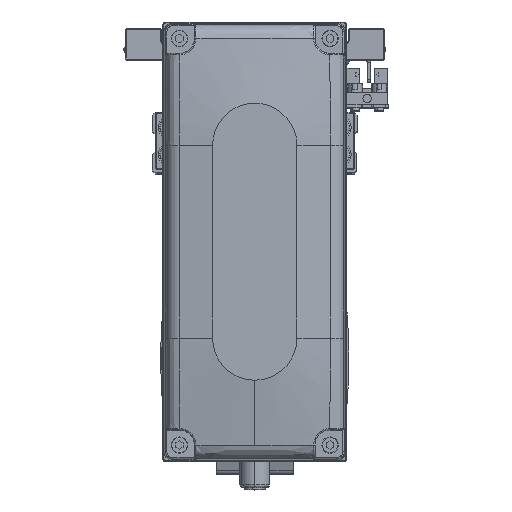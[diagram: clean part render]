
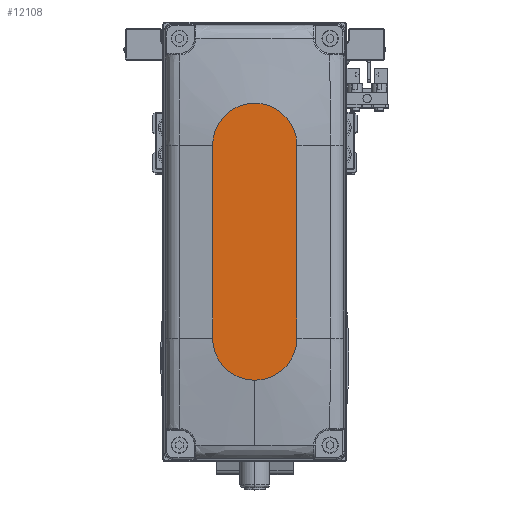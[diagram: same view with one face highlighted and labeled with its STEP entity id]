
A CAD part, top view. The second image highlights one B-rep face of the part: STEP entity #12108.
In plain terms, the highlighted planar face has unit normal (0, 0, 1).
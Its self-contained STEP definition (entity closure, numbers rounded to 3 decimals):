
#1050 = CIRCLE ( 'NONE', #25648, 14. ) ;
#1856 = CARTESIAN_POINT ( 'NONE',  ( 32., 0., 35. ) ) ;
#2199 = ORIENTED_EDGE ( 'NONE', *, *, #39862, .T. ) ;
#2525 = CARTESIAN_POINT ( 'NONE',  ( -32., 0., 35. ) ) ;
#4922 = DIRECTION ( 'NONE',  ( 1., 0., 0. ) ) ;
#7178 = VECTOR ( 'NONE', #37566, 1000. ) ;
#8194 = PLANE ( 'NONE',  #36282 ) ;
#8366 = AXIS2_PLACEMENT_3D ( 'NONE', #2525, #15924, #29371 ) ;
#9100 = CARTESIAN_POINT ( 'NONE',  ( -32., -14., 35. ) ) ;
#10685 = LINE ( 'NONE', #24102, #7178 ) ;
#11207 = AXIS2_PLACEMENT_3D ( 'NONE', #1856, #15267, #28710 ) ;
#11889 = DIRECTION ( 'NONE',  ( 1., 0., 0. ) ) ;
#12108 = ADVANCED_FACE ( 'NONE', ( #38385 ), #8194, .T. ) ;
#12723 = VERTEX_POINT ( 'NONE', #23101 ) ;
#13857 = CARTESIAN_POINT ( 'NONE',  ( -32., -14., 35. ) ) ;
#15267 = DIRECTION ( 'NONE',  ( 0., 0., 1. ) ) ;
#15279 = ORIENTED_EDGE ( 'NONE', *, *, #24100, .T. ) ;
#15924 = DIRECTION ( 'NONE',  ( 0., 0., 1. ) ) ;
#16838 = ORIENTED_EDGE ( 'NONE', *, *, #31359, .T. ) ;
#17787 = EDGE_CURVE ( 'NONE', #21810, #22195, #10685, .T. ) ;
#20621 = CARTESIAN_POINT ( 'NONE',  ( -32., 14., 35. ) ) ;
#20663 = VECTOR ( 'NONE', #22510, 1000. ) ;
#21624 = CARTESIAN_POINT ( 'NONE',  ( 0., 0., 35. ) ) ;
#21810 = VERTEX_POINT ( 'NONE', #37079 ) ;
#22195 = VERTEX_POINT ( 'NONE', #20621 ) ;
#22510 = DIRECTION ( 'NONE',  ( 1., 0., 0. ) ) ;
#23101 = CARTESIAN_POINT ( 'NONE',  ( 32., -14., 35. ) ) ;
#24100 = EDGE_CURVE ( 'NONE', #22195, #42692, #27350, .T. ) ;
#24102 = CARTESIAN_POINT ( 'NONE',  ( -32., 14., 35. ) ) ;
#25648 = AXIS2_PLACEMENT_3D ( 'NONE', #28606, #42080, #11889 ) ;
#26243 = VERTEX_POINT ( 'NONE', #27663 ) ;
#27350 = CIRCLE ( 'NONE', #8366, 14. ) ;
#27663 = CARTESIAN_POINT ( 'NONE',  ( 46., 0., 35. ) ) ;
#28078 = ORIENTED_EDGE ( 'NONE', *, *, #17787, .T. ) ;
#28606 = CARTESIAN_POINT ( 'NONE',  ( 32., 0., 35. ) ) ;
#28710 = DIRECTION ( 'NONE',  ( 1., 0., 0. ) ) ;
#28881 = EDGE_CURVE ( 'NONE', #26243, #21810, #1050, .T. ) ;
#29371 = DIRECTION ( 'NONE',  ( 1., 0., 0. ) ) ;
#30215 = CIRCLE ( 'NONE', #11207, 14. ) ;
#31359 = EDGE_CURVE ( 'NONE', #12723, #26243, #30215, .T. ) ;
#35073 = DIRECTION ( 'NONE',  ( 0., 0., 1. ) ) ;
#36282 = AXIS2_PLACEMENT_3D ( 'NONE', #21624, #35073, #4922 ) ;
#36942 = ORIENTED_EDGE ( 'NONE', *, *, #28881, .T. ) ;
#37079 = CARTESIAN_POINT ( 'NONE',  ( 32., 14., 35. ) ) ;
#37566 = DIRECTION ( 'NONE',  ( -1., 0., 0. ) ) ;
#38385 = FACE_OUTER_BOUND ( 'NONE', #38632, .T. ) ;
#38632 = EDGE_LOOP ( 'NONE', ( #28078, #15279, #2199, #16838, #36942 ) ) ;
#39276 = LINE ( 'NONE', #9100, #20663 ) ;
#39862 = EDGE_CURVE ( 'NONE', #42692, #12723, #39276, .T. ) ;
#42080 = DIRECTION ( 'NONE',  ( 0., 0., 1. ) ) ;
#42692 = VERTEX_POINT ( 'NONE', #13857 ) ;
